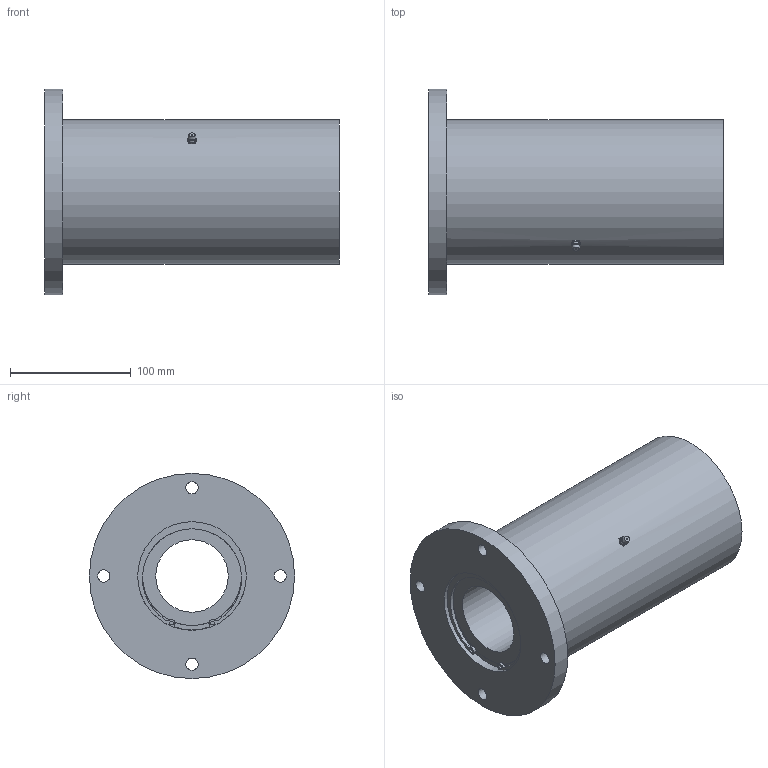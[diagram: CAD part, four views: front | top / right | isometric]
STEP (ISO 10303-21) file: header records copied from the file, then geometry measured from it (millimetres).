
FILE_DESCRIPTION((''),'2;1');
FILE_NAME('D:\製品 (図面)\カタログ用3D\リニアベアリング関連(改)\STEP形式\LFW-OH\LFW60-OH.stp','2010-01-22T16:18:46',('Tsuchiya'),(''),'Autodesk Inventor 10','Autodesk Inventor 10','');
FILE_SCHEMA(('AUTOMOTIVE_DESIGN { 1 0 10303 214 1 1 1 1 }'));
Length unit declared in the file: millimetre
Products named in the file (1): LFW60-OH
Bounding box: 244 x 170 x 170 mm (x, y, z)
Volume: 2188993.9 mm3; surface area: 205540.8 mm2
Topology: 1 solids, 7 shells, 105 faces, 228 edges, 144 vertices
Faces by surface type: bspline 36, plane 31, cylinder 27, cone 7, sphere 2, torus 2
Full cylindrical faces by diameter (mm): 3 x2, 10.106 x4, 60 x2, 82 x2, 86.5 x2, 90 x8, 120 x1, 170 x1
Entity records: 2973 total; most frequent: CARTESIAN_POINT 910, DIRECTION 428, ORIENTED_EDGE 348, AXIS2_PLACEMENT_3D 196, EDGE_LOOP 178, EDGE_CURVE 174, VERTEX_POINT 130, CIRCLE 122
